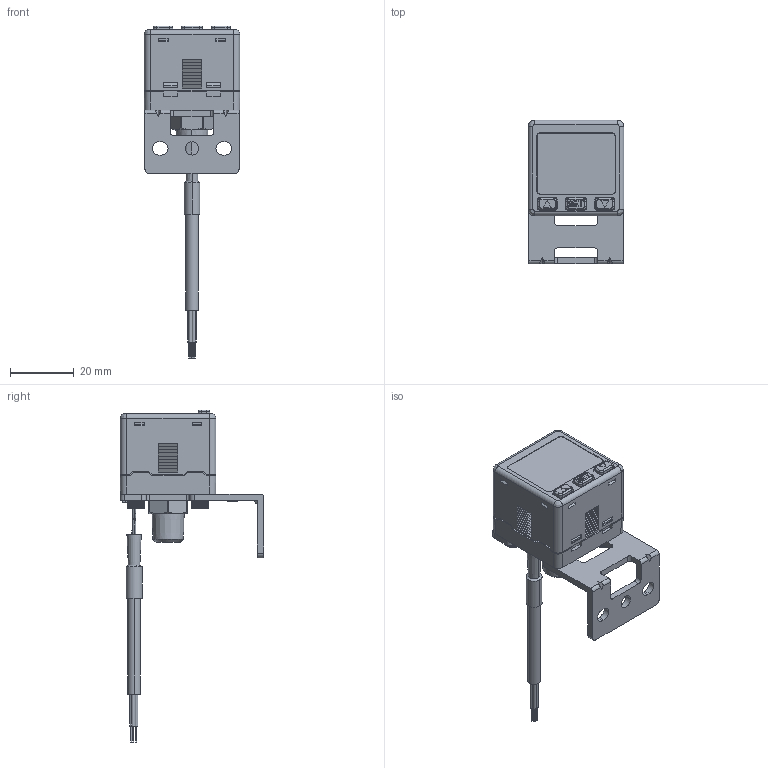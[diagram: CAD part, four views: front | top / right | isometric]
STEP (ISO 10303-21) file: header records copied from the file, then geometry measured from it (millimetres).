
FILE_DESCRIPTION((''),'2;1');
FILE_NAME('KP43-BT-13','2019-06-18T',('Stark'),(''),'CREO PARAMETRIC BY PTC INC, 2014500','CREO PARAMETRIC BY PTC INC, 2014500','');
FILE_SCHEMA(('CONFIG_CONTROL_DESIGN'));
Length unit declared in the file: millimetre
Products named in the file (1): KP43-BT-13
Bounding box: 30.03 x 45 x 104.05 mm (x, y, z)
Volume: 26386.7 mm3; surface area: 10648.9 mm2
Topology: 1 solids, 2 shells, 1343 faces, 3453 edges, 2162 vertices
Faces by surface type: plane 937, cylinder 234, cone 102, bspline 49, torus 21
Entity records: 45928 total; most frequent: CARTESIAN_POINT 13778, ORIENTED_EDGE 6898, DIRECTION 6297, EDGE_CURVE 3449, VECTOR 2347, LINE 2347, VERTEX_POINT 2162, AXIS2_PLACEMENT_3D 1975
